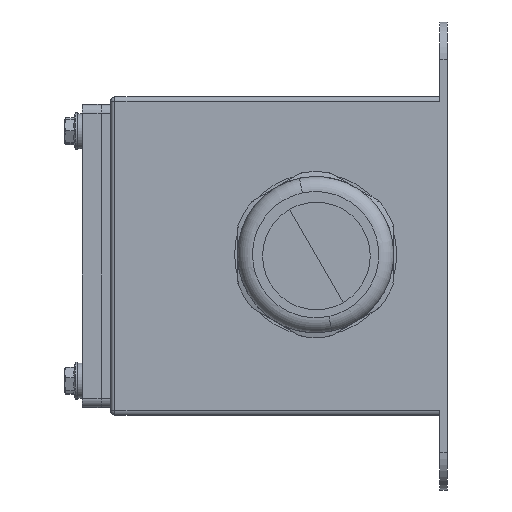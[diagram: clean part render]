
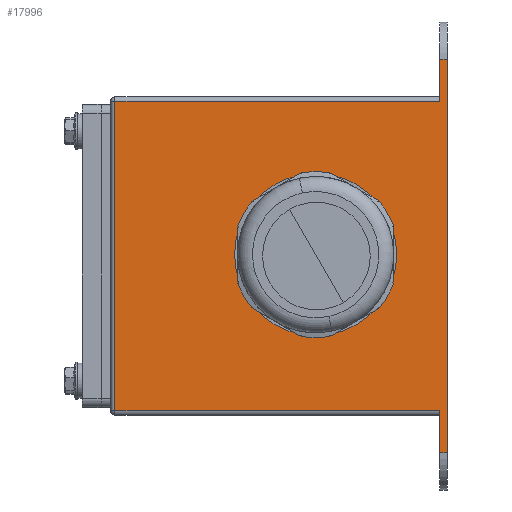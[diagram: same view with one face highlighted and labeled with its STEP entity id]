
A CAD part, left-side view. The second image highlights one B-rep face of the part: STEP entity #17996.
In plain terms, the highlighted planar face has unit normal (-1, 0, 0).
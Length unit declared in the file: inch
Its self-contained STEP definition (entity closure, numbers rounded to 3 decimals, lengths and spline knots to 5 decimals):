
#305 = VERTEX_POINT ( 'NONE', #17325 ) ;
#357 = CARTESIAN_POINT ( 'NONE',  ( -5.75, 2.19, -2.125 ) ) ;
#1063 = DIRECTION ( 'NONE',  ( 0., 0., 1. ) ) ;
#1608 = CARTESIAN_POINT ( 'NONE',  ( -5.75, -2.25, 2.125 ) ) ;
#2028 = PLANE ( 'NONE',  #16568 ) ;
#2173 = VERTEX_POINT ( 'NONE', #19093 ) ;
#3369 = AXIS2_PLACEMENT_3D ( 'NONE', #11761, #11495, #1063 ) ;
#3746 = EDGE_LOOP ( 'NONE', ( #24055, #11294, #17958, #14709, #22657, #26639, #22370, #22592 ) ) ;
#3763 = DIRECTION ( 'NONE',  ( -1., 0., 0. ) ) ;
#4135 = EDGE_CURVE ( 'NONE', #12091, #12638, #18924, .T. ) ;
#4283 = CARTESIAN_POINT ( 'NONE',  ( -5.75, -2.145, -2.625 ) ) ;
#4527 = CARTESIAN_POINT ( 'NONE',  ( -5.75, -0.5, 0. ) ) ;
#5764 = DIRECTION ( 'NONE',  ( 0., 1., 0. ) ) ;
#5911 = DIRECTION ( 'NONE',  ( 0., -1., 0. ) ) ;
#6011 = CARTESIAN_POINT ( 'NONE',  ( -5.75, -2.25, -2.625 ) ) ;
#6285 = EDGE_LOOP ( 'NONE', ( #14918, #21772 ) ) ;
#7413 = LINE ( 'NONE', #11602, #11114 ) ;
#7848 = DIRECTION ( 'NONE',  ( 0., 0., 1. ) ) ;
#7955 = DIRECTION ( 'NONE',  ( 0., 0., -1. ) ) ;
#8055 = DIRECTION ( 'NONE',  ( 0., -1., 0. ) ) ;
#8369 = DIRECTION ( 'NONE',  ( 0., 0., -1. ) ) ;
#8513 = EDGE_CURVE ( 'NONE', #27410, #24573, #18269, .T. ) ;
#8687 = VERTEX_POINT ( 'NONE', #6011 ) ;
#9092 = VECTOR ( 'NONE', #5764, 39.37008 ) ;
#9903 = VECTOR ( 'NONE', #23609, 39.37008 ) ;
#9927 = VERTEX_POINT ( 'NONE', #17480 ) ;
#10050 = VECTOR ( 'NONE', #7955, 39.37008 ) ;
#10066 = CARTESIAN_POINT ( 'NONE',  ( -5.75, -2.145, 2.065 ) ) ;
#10551 = CARTESIAN_POINT ( 'NONE',  ( -5.75, 2.25, -2.065 ) ) ;
#10661 = CARTESIAN_POINT ( 'NONE',  ( -5.75, 2.25, 2.065 ) ) ;
#10742 = VERTEX_POINT ( 'NONE', #23337 ) ;
#11114 = VECTOR ( 'NONE', #8369, 39.37008 ) ;
#11294 = ORIENTED_EDGE ( 'NONE', *, *, #13709, .T. ) ;
#11495 = DIRECTION ( 'NONE',  ( -1., 0., 0. ) ) ;
#11602 = CARTESIAN_POINT ( 'NONE',  ( -5.75, -2.145, -2.125 ) ) ;
#11607 = CIRCLE ( 'NONE', #21818, 0.94488 ) ;
#11761 = CARTESIAN_POINT ( 'NONE',  ( -5.75, -0.5, 0. ) ) ;
#12091 = VERTEX_POINT ( 'NONE', #21357 ) ;
#12638 = VERTEX_POINT ( 'NONE', #26263 ) ;
#12776 = VECTOR ( 'NONE', #19550, 39.37008 ) ;
#12852 = DIRECTION ( 'NONE',  ( 0., 0., -1. ) ) ;
#13095 = EDGE_CURVE ( 'NONE', #9927, #10742, #11607, .T. ) ;
#13153 = LINE ( 'NONE', #357, #12776 ) ;
#13709 = EDGE_CURVE ( 'NONE', #12638, #305, #7413, .T. ) ;
#14709 = ORIENTED_EDGE ( 'NONE', *, *, #23171, .T. ) ;
#14895 = VECTOR ( 'NONE', #8055, 39.37008 ) ;
#14918 = ORIENTED_EDGE ( 'NONE', *, *, #22991, .F. ) ;
#14937 = DIRECTION ( 'NONE',  ( 1., 0., 0. ) ) ;
#15357 = FACE_OUTER_BOUND ( 'NONE', #3746, .T. ) ;
#15667 = EDGE_CURVE ( 'NONE', #27410, #17596, #23299, .T. ) ;
#15799 = VECTOR ( 'NONE', #7848, 39.37008 ) ;
#16568 = AXIS2_PLACEMENT_3D ( 'NONE', #21210, #14937, #12852 ) ;
#16932 = LINE ( 'NONE', #10661, #9092 ) ;
#16954 = DIRECTION ( 'NONE',  ( 0., 0., 1. ) ) ;
#17325 = CARTESIAN_POINT ( 'NONE',  ( -5.75, -2.145, -2.625 ) ) ;
#17347 = LINE ( 'NONE', #4283, #9903 ) ;
#17480 = CARTESIAN_POINT ( 'NONE',  ( -5.75, -0.5, -0.94488 ) ) ;
#17596 = VERTEX_POINT ( 'NONE', #24088 ) ;
#17958 = ORIENTED_EDGE ( 'NONE', *, *, #18456, .T. ) ;
#17996 = ADVANCED_FACE ( 'NONE', ( #25918, #15357 ), #2028, .F. ) ;
#18269 = LINE ( 'NONE', #24652, #10050 ) ;
#18456 = EDGE_CURVE ( 'NONE', #305, #8687, #17347, .T. ) ;
#18924 = LINE ( 'NONE', #10551, #14895 ) ;
#19093 = CARTESIAN_POINT ( 'NONE',  ( -5.75, 2.19, 2.065 ) ) ;
#19167 = VECTOR ( 'NONE', #5911, 39.37008 ) ;
#19550 = DIRECTION ( 'NONE',  ( 0., 0., -1. ) ) ;
#21210 = CARTESIAN_POINT ( 'NONE',  ( -5.75, 2.25, 2.125 ) ) ;
#21357 = CARTESIAN_POINT ( 'NONE',  ( -5.75, 2.19, -2.065 ) ) ;
#21772 = ORIENTED_EDGE ( 'NONE', *, *, #13095, .F. ) ;
#21818 = AXIS2_PLACEMENT_3D ( 'NONE', #4527, #3763, #16954 ) ;
#22270 = EDGE_CURVE ( 'NONE', #24573, #2173, #16932, .T. ) ;
#22370 = ORIENTED_EDGE ( 'NONE', *, *, #22270, .T. ) ;
#22592 = ORIENTED_EDGE ( 'NONE', *, *, #25299, .T. ) ;
#22657 = ORIENTED_EDGE ( 'NONE', *, *, #15667, .F. ) ;
#22991 = EDGE_CURVE ( 'NONE', #10742, #9927, #23340, .T. ) ;
#23171 = EDGE_CURVE ( 'NONE', #8687, #17596, #26901, .T. ) ;
#23299 = LINE ( 'NONE', #25248, #19167 ) ;
#23337 = CARTESIAN_POINT ( 'NONE',  ( -5.75, -0.5, 0.94488 ) ) ;
#23340 = CIRCLE ( 'NONE', #3369, 0.94488 ) ;
#23609 = DIRECTION ( 'NONE',  ( 0., -1., 0. ) ) ;
#24055 = ORIENTED_EDGE ( 'NONE', *, *, #4135, .T. ) ;
#24088 = CARTESIAN_POINT ( 'NONE',  ( -5.75, -2.25, 2.625 ) ) ;
#24347 = CARTESIAN_POINT ( 'NONE',  ( -5.75, -2.145, 2.625 ) ) ;
#24573 = VERTEX_POINT ( 'NONE', #10066 ) ;
#24652 = CARTESIAN_POINT ( 'NONE',  ( -5.75, -2.145, 2.125 ) ) ;
#25248 = CARTESIAN_POINT ( 'NONE',  ( -5.75, -2.145, 2.625 ) ) ;
#25299 = EDGE_CURVE ( 'NONE', #2173, #12091, #13153, .T. ) ;
#25918 = FACE_BOUND ( 'NONE', #6285, .T. ) ;
#26263 = CARTESIAN_POINT ( 'NONE',  ( -5.75, -2.145, -2.065 ) ) ;
#26639 = ORIENTED_EDGE ( 'NONE', *, *, #8513, .T. ) ;
#26901 = LINE ( 'NONE', #1608, #15799 ) ;
#27410 = VERTEX_POINT ( 'NONE', #24347 ) ;
